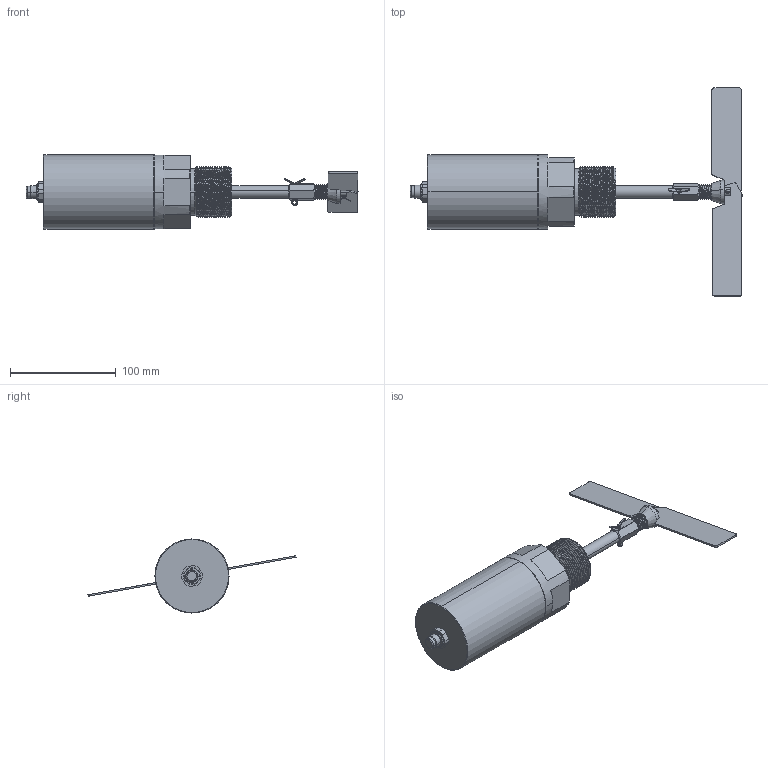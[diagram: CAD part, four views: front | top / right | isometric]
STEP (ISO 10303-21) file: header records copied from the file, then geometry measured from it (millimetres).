
FILE_DESCRIPTION (( 'STEP AP214' ), '1' );
FILE_NAME ('MBA888_230V 謥踙摳.STP.STEP', '2021-02-28T20:11:46', ( '' ), ( '' ), 'SwSTEP 2.0', 'SolidWorks 2020', '' );
FILE_SCHEMA (( 'AUTOMOTIVE_DESIGN' ));
Length unit declared in the file: millimetre
Products named in the file (12): MBA888_24V_P2.STP; MBA888_24V_P5.STP; Øïèëüêà (2); Ïðóæèíà; MBA888_24V_P3.STP; MBA888_230V_P1.STP; Ëîïàñòü ñêëàäíàÿ; MBA888_24V_P4.STP; MBA888_230V.STP.STP; Øïèëüêà 2ìì; MBA888_230V 謥踙摳.STP
Assembly tree (11 placements, depth 3):
  MBA888_230V 謥踙摳.STP
    MBA888_230V.STP.STP
      MBA888_24V_P2.STP
      MBA888_24V_P3.STP
      MBA888_24V_P4.STP
      MBA888_24V_P5.STP
      MBA888_230V_P1.STP
    Øïèëüêà (2)
    Ëîïàñòü ñêëàäíàÿ
      Ëîïàñòü ñêëàäíàÿ
      Øïèëüêà 2ìì
      Ïðóæèíà
Bounding box: 314 x 196.85 x 70 mm (x, y, z)
Volume: 280927.4 mm3; surface area: 110614.3 mm2
Topology: 9 solids, 9 shells, 419 faces, 1006 edges, 622 vertices
Faces by surface type: cylinder 191, plane 118, torus 52, cone 49, bspline 9
Entity records: 25321 total; most frequent: CARTESIAN_POINT 15096, DIRECTION 2160, ORIENTED_EDGE 2004, EDGE_CURVE 1002, AXIS2_PLACEMENT_3D 874, VERTEX_POINT 622, EDGE_LOOP 458, CIRCLE 448
